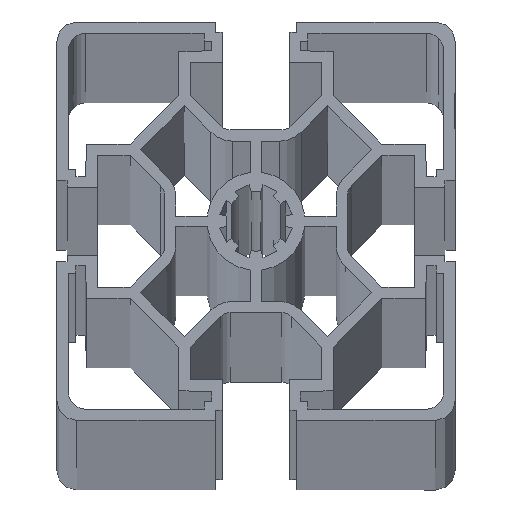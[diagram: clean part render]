
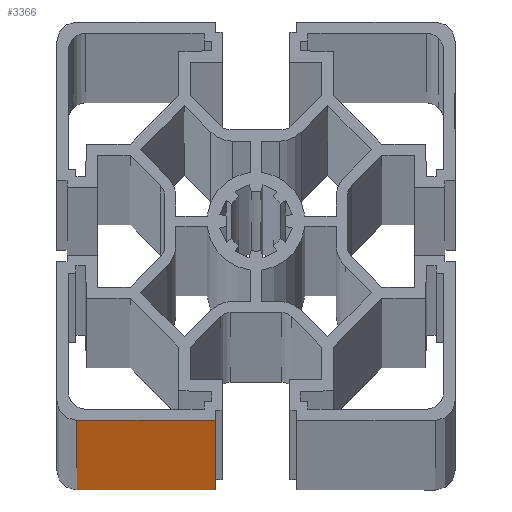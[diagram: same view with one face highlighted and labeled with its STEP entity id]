
A CAD part, top view. The second image highlights one B-rep face of the part: STEP entity #3366.
In plain terms, the highlighted planar face has unit normal (0, -1, 0).
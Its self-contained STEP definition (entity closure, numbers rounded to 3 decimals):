
#1587 = CARTESIAN_POINT ( 'NONE',  ( 3., 0., -6000. ) ) ;
#2724 = LINE ( 'NONE', #8095, #7079 ) ;
#2860 = FACE_OUTER_BOUND ( 'NONE', #9404, .T. ) ;
#3185 = CARTESIAN_POINT ( 'NONE',  ( 0., 0., -6000. ) ) ;
#3366 = ADVANCED_FACE ( 'NONE', ( #2860 ), #5529, .T. ) ;
#3683 = EDGE_CURVE ( 'NONE', #10522, #7187, #2724, .T. ) ;
#3751 = CARTESIAN_POINT ( 'NONE',  ( 23.885, 0., 0. ) ) ;
#3754 = LINE ( 'NONE', #1587, #8132 ) ;
#4506 = CARTESIAN_POINT ( 'NONE',  ( 3., 0., -6000. ) ) ;
#4937 = EDGE_CURVE ( 'NONE', #6600, #7187, #6157, .T. ) ;
#5061 = DIRECTION ( 'NONE',  ( 1., 0., 0. ) ) ;
#5129 = DIRECTION ( 'NONE',  ( 0., -1., 0. ) ) ;
#5242 = CARTESIAN_POINT ( 'NONE',  ( 0., 0., -6000. ) ) ;
#5413 = ORIENTED_EDGE ( 'NONE', *, *, #3683, .F. ) ;
#5426 = VECTOR ( 'NONE', #10158, 1000. ) ;
#5529 = PLANE ( 'NONE',  #9174 ) ;
#5684 = EDGE_CURVE ( 'NONE', #9235, #6600, #10065, .T. ) ;
#6124 = CARTESIAN_POINT ( 'NONE',  ( 3., 0., 0. ) ) ;
#6157 = LINE ( 'NONE', #7518, #10802 ) ;
#6600 = VERTEX_POINT ( 'NONE', #9931 ) ;
#6773 = EDGE_CURVE ( 'NONE', #9235, #10522, #3754, .T. ) ;
#7079 = VECTOR ( 'NONE', #7895, 1000. ) ;
#7187 = VERTEX_POINT ( 'NONE', #3751 ) ;
#7388 = DIRECTION ( 'NONE',  ( 0., 0., 1. ) ) ;
#7518 = CARTESIAN_POINT ( 'NONE',  ( 23.885, 0., -6000. ) ) ;
#7895 = DIRECTION ( 'NONE',  ( 1., 0., 0. ) ) ;
#8095 = CARTESIAN_POINT ( 'NONE',  ( 0., 0., 0. ) ) ;
#8132 = VECTOR ( 'NONE', #10312, 1000. ) ;
#8215 = ORIENTED_EDGE ( 'NONE', *, *, #6773, .F. ) ;
#8287 = ORIENTED_EDGE ( 'NONE', *, *, #4937, .T. ) ;
#8484 = ORIENTED_EDGE ( 'NONE', *, *, #5684, .T. ) ;
#9174 = AXIS2_PLACEMENT_3D ( 'NONE', #5242, #5129, #5061 ) ;
#9235 = VERTEX_POINT ( 'NONE', #4506 ) ;
#9404 = EDGE_LOOP ( 'NONE', ( #5413, #8215, #8484, #8287 ) ) ;
#9931 = CARTESIAN_POINT ( 'NONE',  ( 23.885, 0., -6000. ) ) ;
#10065 = LINE ( 'NONE', #3185, #5426 ) ;
#10158 = DIRECTION ( 'NONE',  ( 1., 0., 0. ) ) ;
#10312 = DIRECTION ( 'NONE',  ( 0., 0., 1. ) ) ;
#10522 = VERTEX_POINT ( 'NONE', #6124 ) ;
#10802 = VECTOR ( 'NONE', #7388, 1000. ) ;
